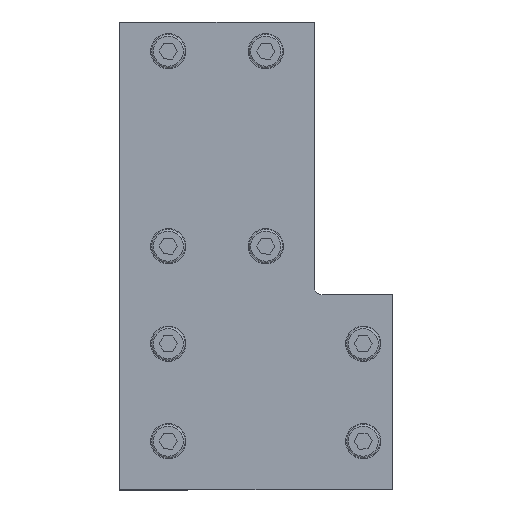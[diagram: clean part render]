
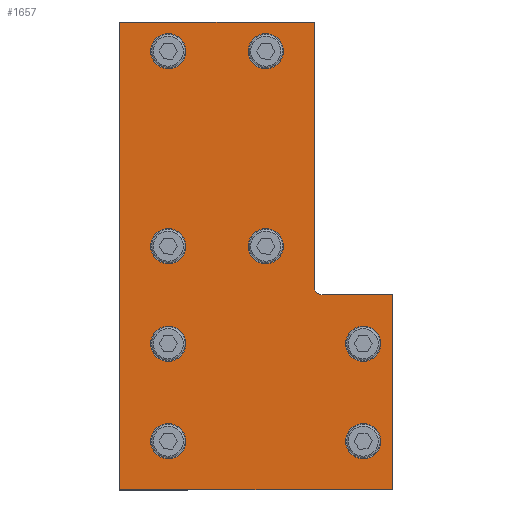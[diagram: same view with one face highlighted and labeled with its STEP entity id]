
A CAD part, top view. The second image highlights one B-rep face of the part: STEP entity #1657.
In plain terms, the highlighted planar face has unit normal (0, 0, 1).
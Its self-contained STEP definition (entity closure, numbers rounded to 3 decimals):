
#183=FACE_BOUND('',#334,.T.);
#184=FACE_BOUND('',#335,.T.);
#185=FACE_BOUND('',#336,.T.);
#186=FACE_BOUND('',#337,.T.);
#187=FACE_BOUND('',#338,.T.);
#188=FACE_BOUND('',#339,.T.);
#189=FACE_BOUND('',#340,.T.);
#190=FACE_BOUND('',#341,.T.);
#209=PLANE('',#1881);
#252=FACE_OUTER_BOUND('',#333,.T.);
#333=EDGE_LOOP('',(#1203,#1204,#1205,#1206,#1207,#1208,#1209));
#334=EDGE_LOOP('',(#1210,#1211));
#335=EDGE_LOOP('',(#1212,#1213));
#336=EDGE_LOOP('',(#1214,#1215));
#337=EDGE_LOOP('',(#1216,#1217));
#338=EDGE_LOOP('',(#1218,#1219));
#339=EDGE_LOOP('',(#1220,#1221));
#340=EDGE_LOOP('',(#1222,#1223));
#341=EDGE_LOOP('',(#1224,#1225));
#423=LINE('',#2552,#545);
#432=LINE('',#2619,#554);
#435=LINE('',#2625,#557);
#438=LINE('',#2631,#560);
#441=LINE('',#2637,#563);
#444=LINE('',#2642,#566);
#545=VECTOR('',#2046,10.);
#554=VECTOR('',#2121,10.);
#557=VECTOR('',#2126,10.);
#560=VECTOR('',#2131,10.);
#563=VECTOR('',#2136,10.);
#566=VECTOR('',#2141,10.);
#664=CIRCLE('',#1842,2.);
#665=CIRCLE('',#1845,2.75);
#666=CIRCLE('',#1846,2.75);
#668=CIRCLE('',#1849,2.75);
#669=CIRCLE('',#1850,2.75);
#671=CIRCLE('',#1853,2.75);
#672=CIRCLE('',#1854,2.75);
#674=CIRCLE('',#1857,2.75);
#675=CIRCLE('',#1858,2.75);
#677=CIRCLE('',#1861,2.75);
#678=CIRCLE('',#1862,2.75);
#680=CIRCLE('',#1865,2.75);
#681=CIRCLE('',#1866,2.75);
#683=CIRCLE('',#1869,2.75);
#684=CIRCLE('',#1870,2.75);
#686=CIRCLE('',#1873,2.75);
#687=CIRCLE('',#1874,2.75);
#750=VERTEX_POINT('',#2542);
#751=VERTEX_POINT('',#2544);
#753=VERTEX_POINT('',#2550);
#754=VERTEX_POINT('',#2554);
#755=VERTEX_POINT('',#2555);
#757=VERTEX_POINT('',#2562);
#758=VERTEX_POINT('',#2563);
#760=VERTEX_POINT('',#2570);
#761=VERTEX_POINT('',#2571);
#763=VERTEX_POINT('',#2578);
#764=VERTEX_POINT('',#2579);
#766=VERTEX_POINT('',#2586);
#767=VERTEX_POINT('',#2587);
#769=VERTEX_POINT('',#2594);
#770=VERTEX_POINT('',#2595);
#772=VERTEX_POINT('',#2602);
#773=VERTEX_POINT('',#2603);
#775=VERTEX_POINT('',#2610);
#776=VERTEX_POINT('',#2611);
#778=VERTEX_POINT('',#2618);
#780=VERTEX_POINT('',#2624);
#782=VERTEX_POINT('',#2630);
#784=VERTEX_POINT('',#2636);
#906=EDGE_CURVE('',#750,#751,#664,.T.);
#910=EDGE_CURVE('',#753,#750,#423,.T.);
#911=EDGE_CURVE('',#754,#755,#665,.T.);
#912=EDGE_CURVE('',#755,#754,#666,.T.);
#915=EDGE_CURVE('',#757,#758,#668,.T.);
#916=EDGE_CURVE('',#758,#757,#669,.T.);
#919=EDGE_CURVE('',#760,#761,#671,.T.);
#920=EDGE_CURVE('',#761,#760,#672,.T.);
#923=EDGE_CURVE('',#763,#764,#674,.T.);
#924=EDGE_CURVE('',#764,#763,#675,.T.);
#927=EDGE_CURVE('',#766,#767,#677,.T.);
#928=EDGE_CURVE('',#767,#766,#678,.T.);
#931=EDGE_CURVE('',#769,#770,#680,.T.);
#932=EDGE_CURVE('',#770,#769,#681,.T.);
#935=EDGE_CURVE('',#772,#773,#683,.T.);
#936=EDGE_CURVE('',#773,#772,#684,.T.);
#939=EDGE_CURVE('',#775,#776,#686,.T.);
#940=EDGE_CURVE('',#776,#775,#687,.T.);
#943=EDGE_CURVE('',#778,#753,#432,.T.);
#946=EDGE_CURVE('',#751,#780,#435,.T.);
#949=EDGE_CURVE('',#780,#782,#438,.T.);
#952=EDGE_CURVE('',#782,#784,#441,.T.);
#955=EDGE_CURVE('',#784,#778,#444,.T.);
#1203=ORIENTED_EDGE('',*,*,#943,.F.);
#1204=ORIENTED_EDGE('',*,*,#955,.F.);
#1205=ORIENTED_EDGE('',*,*,#952,.F.);
#1206=ORIENTED_EDGE('',*,*,#949,.F.);
#1207=ORIENTED_EDGE('',*,*,#946,.F.);
#1208=ORIENTED_EDGE('',*,*,#906,.F.);
#1209=ORIENTED_EDGE('',*,*,#910,.F.);
#1210=ORIENTED_EDGE('',*,*,#911,.T.);
#1211=ORIENTED_EDGE('',*,*,#912,.T.);
#1212=ORIENTED_EDGE('',*,*,#915,.T.);
#1213=ORIENTED_EDGE('',*,*,#916,.T.);
#1214=ORIENTED_EDGE('',*,*,#919,.T.);
#1215=ORIENTED_EDGE('',*,*,#920,.T.);
#1216=ORIENTED_EDGE('',*,*,#923,.T.);
#1217=ORIENTED_EDGE('',*,*,#924,.T.);
#1218=ORIENTED_EDGE('',*,*,#927,.T.);
#1219=ORIENTED_EDGE('',*,*,#928,.T.);
#1220=ORIENTED_EDGE('',*,*,#931,.T.);
#1221=ORIENTED_EDGE('',*,*,#932,.T.);
#1222=ORIENTED_EDGE('',*,*,#935,.T.);
#1223=ORIENTED_EDGE('',*,*,#936,.T.);
#1224=ORIENTED_EDGE('',*,*,#939,.T.);
#1225=ORIENTED_EDGE('',*,*,#940,.T.);
#1657=ADVANCED_FACE('',(#252,#183,#184,#185,#186,#187,#188,#189,#190),#209,
 .T.);
#1842=AXIS2_PLACEMENT_3D('',#2545,#2039,#2040);
#1845=AXIS2_PLACEMENT_3D('',#2556,#2049,#2050);
#1846=AXIS2_PLACEMENT_3D('',#2557,#2051,#2052);
#1849=AXIS2_PLACEMENT_3D('',#2564,#2058,#2059);
#1850=AXIS2_PLACEMENT_3D('',#2565,#2060,#2061);
#1853=AXIS2_PLACEMENT_3D('',#2572,#2067,#2068);
#1854=AXIS2_PLACEMENT_3D('',#2573,#2069,#2070);
#1857=AXIS2_PLACEMENT_3D('',#2580,#2076,#2077);
#1858=AXIS2_PLACEMENT_3D('',#2581,#2078,#2079);
#1861=AXIS2_PLACEMENT_3D('',#2588,#2085,#2086);
#1862=AXIS2_PLACEMENT_3D('',#2589,#2087,#2088);
#1865=AXIS2_PLACEMENT_3D('',#2596,#2094,#2095);
#1866=AXIS2_PLACEMENT_3D('',#2597,#2096,#2097);
#1869=AXIS2_PLACEMENT_3D('',#2604,#2103,#2104);
#1870=AXIS2_PLACEMENT_3D('',#2605,#2105,#2106);
#1873=AXIS2_PLACEMENT_3D('',#2612,#2112,#2113);
#1874=AXIS2_PLACEMENT_3D('',#2613,#2114,#2115);
#1881=AXIS2_PLACEMENT_3D('',#2644,#2143,#2144);
#2039=DIRECTION('center_axis',(0.,0.,1.));
#2040=DIRECTION('ref_axis',(-0.707,-0.707,0.));
#2046=DIRECTION('',(0.,-1.,0.));
#2049=DIRECTION('center_axis',(0.,0.,-1.));
#2050=DIRECTION('ref_axis',(1.,0.,0.));
#2051=DIRECTION('center_axis',(0.,0.,-1.));
#2052=DIRECTION('ref_axis',(1.,0.,0.));
#2058=DIRECTION('center_axis',(0.,0.,-1.));
#2059=DIRECTION('ref_axis',(1.,0.,0.));
#2060=DIRECTION('center_axis',(0.,0.,-1.));
#2061=DIRECTION('ref_axis',(1.,0.,0.));
#2067=DIRECTION('center_axis',(0.,0.,-1.));
#2068=DIRECTION('ref_axis',(1.,0.,0.));
#2069=DIRECTION('center_axis',(0.,0.,-1.));
#2070=DIRECTION('ref_axis',(1.,0.,0.));
#2076=DIRECTION('center_axis',(0.,0.,-1.));
#2077=DIRECTION('ref_axis',(1.,0.,0.));
#2078=DIRECTION('center_axis',(0.,0.,-1.));
#2079=DIRECTION('ref_axis',(1.,0.,0.));
#2085=DIRECTION('center_axis',(0.,0.,-1.));
#2086=DIRECTION('ref_axis',(1.,0.,0.));
#2087=DIRECTION('center_axis',(0.,0.,-1.));
#2088=DIRECTION('ref_axis',(1.,0.,0.));
#2094=DIRECTION('center_axis',(0.,0.,-1.));
#2095=DIRECTION('ref_axis',(1.,0.,0.));
#2096=DIRECTION('center_axis',(0.,0.,-1.));
#2097=DIRECTION('ref_axis',(1.,0.,0.));
#2103=DIRECTION('center_axis',(0.,0.,-1.));
#2104=DIRECTION('ref_axis',(1.,0.,0.));
#2105=DIRECTION('center_axis',(0.,0.,-1.));
#2106=DIRECTION('ref_axis',(1.,0.,0.));
#2112=DIRECTION('center_axis',(0.,0.,-1.));
#2113=DIRECTION('ref_axis',(1.,0.,0.));
#2114=DIRECTION('center_axis',(0.,0.,-1.));
#2115=DIRECTION('ref_axis',(1.,0.,0.));
#2121=DIRECTION('',(1.,0.,0.));
#2126=DIRECTION('',(1.,0.,0.));
#2131=DIRECTION('',(0.,-1.,0.));
#2136=DIRECTION('',(-1.,0.,0.));
#2141=DIRECTION('',(0.,1.,0.));
#2143=DIRECTION('center_axis',(0.,0.,1.));
#2144=DIRECTION('ref_axis',(1.,0.,0.));
#2542=CARTESIAN_POINT('',(50.,52.,3.));
#2544=CARTESIAN_POINT('',(52.,50.,3.));
#2545=CARTESIAN_POINT('Origin',(52.,52.,3.));
#2550=CARTESIAN_POINT('',(50.,120.,3.));
#2552=CARTESIAN_POINT('',(50.,120.,3.));
#2554=CARTESIAN_POINT('',(65.25,37.5,3.));
#2555=CARTESIAN_POINT('',(59.75,37.5,3.));
#2556=CARTESIAN_POINT('Origin',(62.5,37.5,3.));
#2557=CARTESIAN_POINT('Origin',(62.5,37.5,3.));
#2562=CARTESIAN_POINT('',(15.25,37.5,3.));
#2563=CARTESIAN_POINT('',(9.75,37.5,3.));
#2564=CARTESIAN_POINT('Origin',(12.5,37.5,3.));
#2565=CARTESIAN_POINT('Origin',(12.5,37.5,3.));
#2570=CARTESIAN_POINT('',(40.25,62.5,3.));
#2571=CARTESIAN_POINT('',(34.75,62.5,3.));
#2572=CARTESIAN_POINT('Origin',(37.5,62.5,3.));
#2573=CARTESIAN_POINT('Origin',(37.5,62.5,3.));
#2578=CARTESIAN_POINT('',(40.25,112.5,3.));
#2579=CARTESIAN_POINT('',(34.75,112.5,3.));
#2580=CARTESIAN_POINT('Origin',(37.5,112.5,3.));
#2581=CARTESIAN_POINT('Origin',(37.5,112.5,3.));
#2586=CARTESIAN_POINT('',(65.25,12.5,3.));
#2587=CARTESIAN_POINT('',(59.75,12.5,3.));
#2588=CARTESIAN_POINT('Origin',(62.5,12.5,3.));
#2589=CARTESIAN_POINT('Origin',(62.5,12.5,3.));
#2594=CARTESIAN_POINT('',(15.25,12.5,3.));
#2595=CARTESIAN_POINT('',(9.75,12.5,3.));
#2596=CARTESIAN_POINT('Origin',(12.5,12.5,3.));
#2597=CARTESIAN_POINT('Origin',(12.5,12.5,3.));
#2602=CARTESIAN_POINT('',(15.25,62.5,3.));
#2603=CARTESIAN_POINT('',(9.75,62.5,3.));
#2604=CARTESIAN_POINT('Origin',(12.5,62.5,3.));
#2605=CARTESIAN_POINT('Origin',(12.5,62.5,3.));
#2610=CARTESIAN_POINT('',(15.25,112.5,3.));
#2611=CARTESIAN_POINT('',(9.75,112.5,3.));
#2612=CARTESIAN_POINT('Origin',(12.5,112.5,3.));
#2613=CARTESIAN_POINT('Origin',(12.5,112.5,3.));
#2618=CARTESIAN_POINT('',(0.,120.,3.));
#2619=CARTESIAN_POINT('',(0.,120.,3.));
#2624=CARTESIAN_POINT('',(70.,50.,3.));
#2625=CARTESIAN_POINT('',(50.,50.,3.));
#2630=CARTESIAN_POINT('',(70.,0.,3.));
#2631=CARTESIAN_POINT('',(70.,50.,3.));
#2636=CARTESIAN_POINT('',(0.,0.,3.));
#2637=CARTESIAN_POINT('',(70.,0.,3.));
#2642=CARTESIAN_POINT('',(0.,0.,3.));
#2644=CARTESIAN_POINT('Origin',(31.316,56.316,3.));
